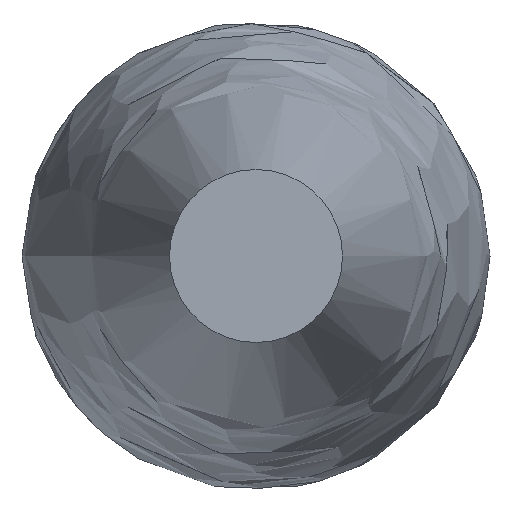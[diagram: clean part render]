
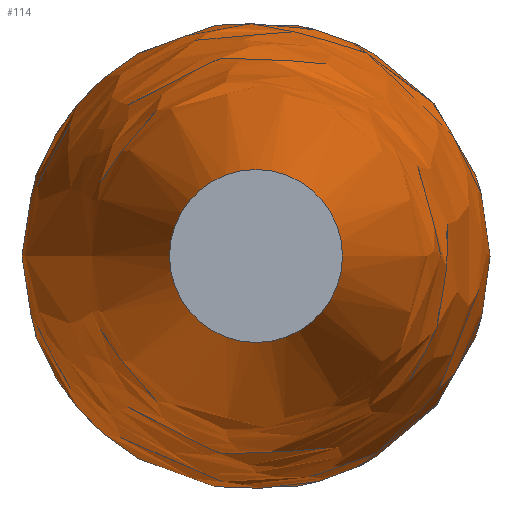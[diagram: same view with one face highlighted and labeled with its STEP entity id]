
A CAD part, left-side view. The second image highlights one B-rep face of the part: STEP entity #114.
In plain terms, the highlighted face is a revolution surface.
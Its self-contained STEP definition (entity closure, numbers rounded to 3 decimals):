
#68=CARTESIAN_POINT('',(40.,12.,0.0));
#69=CARTESIAN_POINT('',(43.469,12.512,0.0));
#70=CARTESIAN_POINT('',(73.081,23.936,0.0));
#71=CARTESIAN_POINT('',(100.803,24.779,0.0));
#72=CARTESIAN_POINT('',(140.624,38.138,0.0));
#73=CARTESIAN_POINT('',(169.407,17.92,0.0));
#74=CARTESIAN_POINT('',(199.742,23.527,0.0));
#75=CARTESIAN_POINT('',(230.153,21.321,0.0));
#76=CARTESIAN_POINT('',(261.369,17.228,0.0));
#77=CARTESIAN_POINT('',(297.458,21.125,0.0));
#78=CARTESIAN_POINT('',(301.384,2.708,0.0));
#79=CARTESIAN_POINT('',(301.,0.,0.0));
#80=B_SPLINE_CURVE_WITH_KNOTS('',4,(#68,#69,#70,#71,#72,#73,#74,#75,#76,#77,#78,#79),.UNSPECIFIED.,.F.,.U.,(5,1,1,1,1,1,1,1,5),(0.0,0.216,0.32,0.424,0.527,0.63,0.733,0.828,1.0),.UNSPECIFIED.);
#81=CARTESIAN_POINT('',(40.0,0.0,0.0));
#82=DIRECTION('',(1.0,0.0,0.0));
#83=AXIS1_PLACEMENT('',#81,#82);
#84=SURFACE_OF_REVOLUTION('',#80,#83);
#85=CARTESIAN_POINT('',(301.0,0.0,0.0));
#86=VERTEX_POINT('',#85);
#87=CARTESIAN_POINT('',(40.0,12.,0.0));
#88=VERTEX_POINT('',#87);
#89=CARTESIAN_POINT('',(301.,0.,0.0));
#90=CARTESIAN_POINT('',(301.384,2.708,0.0));
#91=CARTESIAN_POINT('',(297.458,21.125,0.0));
#92=CARTESIAN_POINT('',(261.369,17.228,0.0));
#93=CARTESIAN_POINT('',(230.153,21.321,0.0));
#94=CARTESIAN_POINT('',(199.742,23.527,0.0));
#95=CARTESIAN_POINT('',(169.407,17.92,0.0));
#96=CARTESIAN_POINT('',(140.624,38.138,0.0));
#97=CARTESIAN_POINT('',(100.803,24.779,0.0));
#98=CARTESIAN_POINT('',(73.081,23.936,0.0));
#99=CARTESIAN_POINT('',(43.469,12.512,0.0));
#100=CARTESIAN_POINT('',(40.,12.,0.0));
#101=B_SPLINE_CURVE_WITH_KNOTS('',4,(#89,#90,#91,#92,#93,#94,#95,#96,#97,#98,#99,#100),.UNSPECIFIED.,.F.,.U.,(5,1,1,1,1,1,1,1,5),(0.0,0.172,0.267,0.37,0.473,0.576,0.68,0.784,1.0),.UNSPECIFIED.);
#102=EDGE_CURVE('',#86,#88,#101,.T.);
#103=ORIENTED_EDGE('',*,*,#102,.T.);
#104=CARTESIAN_POINT('',(40.0,0.0,0.0));
#105=DIRECTION('',(-1.0,0.0,0.0));
#106=DIRECTION('',(0.0,1.0,0.0));
#107=AXIS2_PLACEMENT_3D('',#104,#105,#106);
#108=CIRCLE('',#107,12.);
#109=EDGE_CURVE('',#88,#88,#108,.T.);
#110=ORIENTED_EDGE('',*,*,#109,.F.);
#111=ORIENTED_EDGE('',*,*,#102,.F.);
#112=EDGE_LOOP('',(#103,#110,#111));
#113=FACE_OUTER_BOUND('',#112,.T.);
#114=ADVANCED_FACE('',(#113),#84,.T.);
